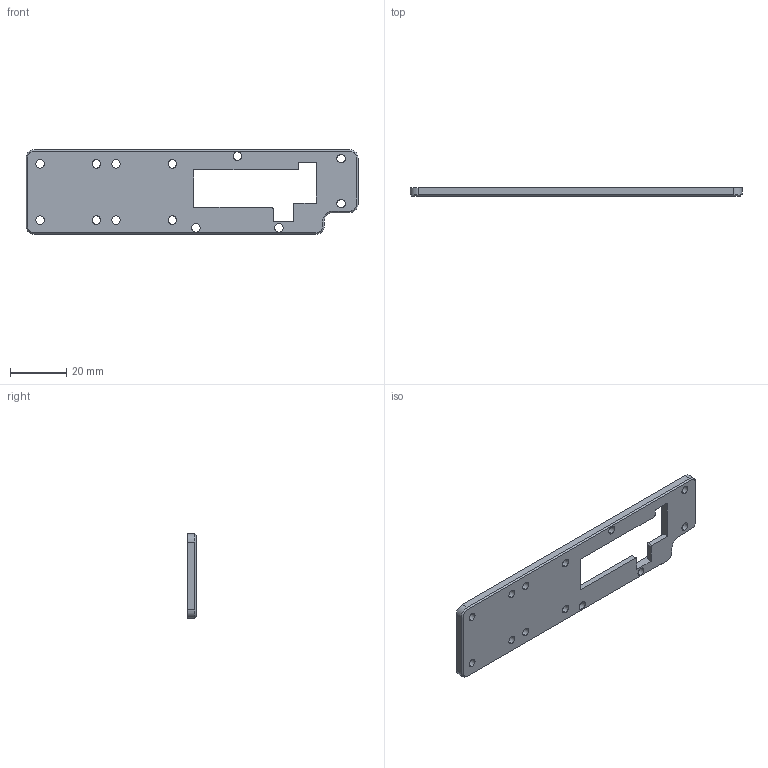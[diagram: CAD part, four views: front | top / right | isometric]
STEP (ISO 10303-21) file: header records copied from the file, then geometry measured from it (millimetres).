
FILE_DESCRIPTION (( 'STEP AP214' ), '1' );
FILE_NAME ('Pressure Sensor Board Bottom.STEP', '2023-03-29T19:44:15', ( '' ), ( '' ), 'SwSTEP 2.0', 'SolidWorks 2022', '' );
FILE_SCHEMA (( 'AUTOMOTIVE_DESIGN' ));
Length unit declared in the file: millimetre
Products named in the file (1): Pressure Sensor Board Bottom
Bounding box: 118 x 3 x 30 mm (x, y, z)
Volume: 7665.9 mm3; surface area: 6967.6 mm2
Topology: 1 solids, 1 shells, 99 faces, 257 edges, 160 vertices
Faces by surface type: cylinder 42, plane 29, cone 28
Entity records: 3133 total; most frequent: DIRECTION 565, CARTESIAN_POINT 535, ORIENTED_EDGE 514, EDGE_CURVE 257, AXIS2_PLACEMENT_3D 210, VERTEX_POINT 160, LINE 145, VECTOR 145
